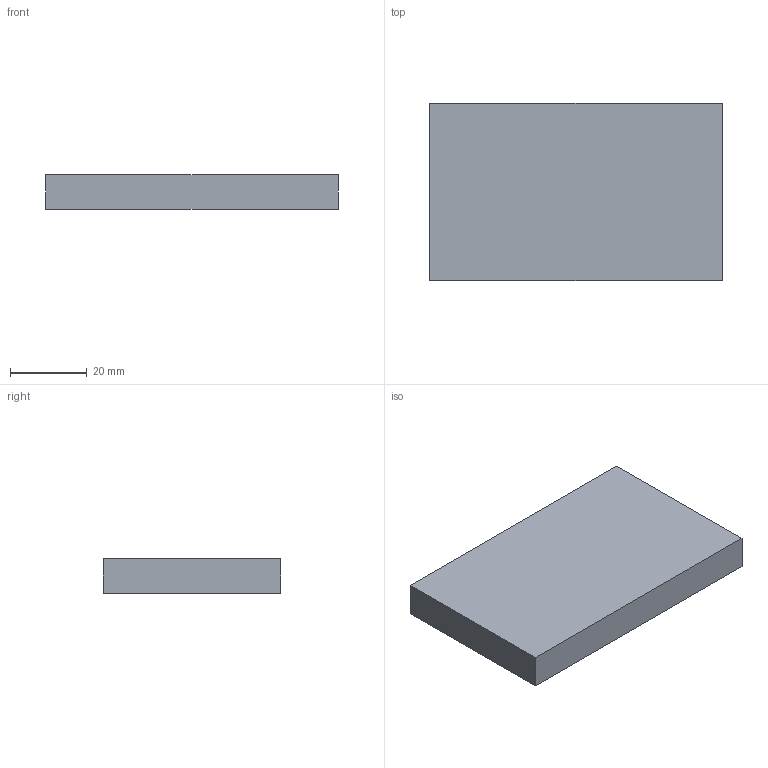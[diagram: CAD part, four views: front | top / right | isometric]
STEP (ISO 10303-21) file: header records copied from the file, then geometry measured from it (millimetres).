
FILE_DESCRIPTION(('Reference STEP solid generated for enclosure CAD implementation'),'2;1');
FILE_NAME('airgap8mb_enclosure_bottom_reference.step','2026-07-29T17:00:00Z',('Daxini'),('Daxini'),'airgap8mb-cadgen','airgap8mb-cadgen','');
FILE_SCHEMA(('AUTOMOTIVE_DESIGN_CC2'));
Length unit declared in the file: millimetre
Products named in the file (1): airgap8mb_enclosure_bottom_reference
Bounding box: 76 x 46 x 9 mm (x, y, z)
Surface area: 9188 mm2 (no closed solid volume)
Topology: 0 solids, 6 shells, 6 faces, 24 edges, 8 vertices
Faces by surface type: plane 6
Entity records: 221 total; most frequent: CARTESIAN_POINT 38, DIRECTION 36, VECTOR 24, LINE 24, EDGE_CURVE 24, ORIENTED_EDGE 24, VERTEX_POINT 8, EDGE_LOOP 6
